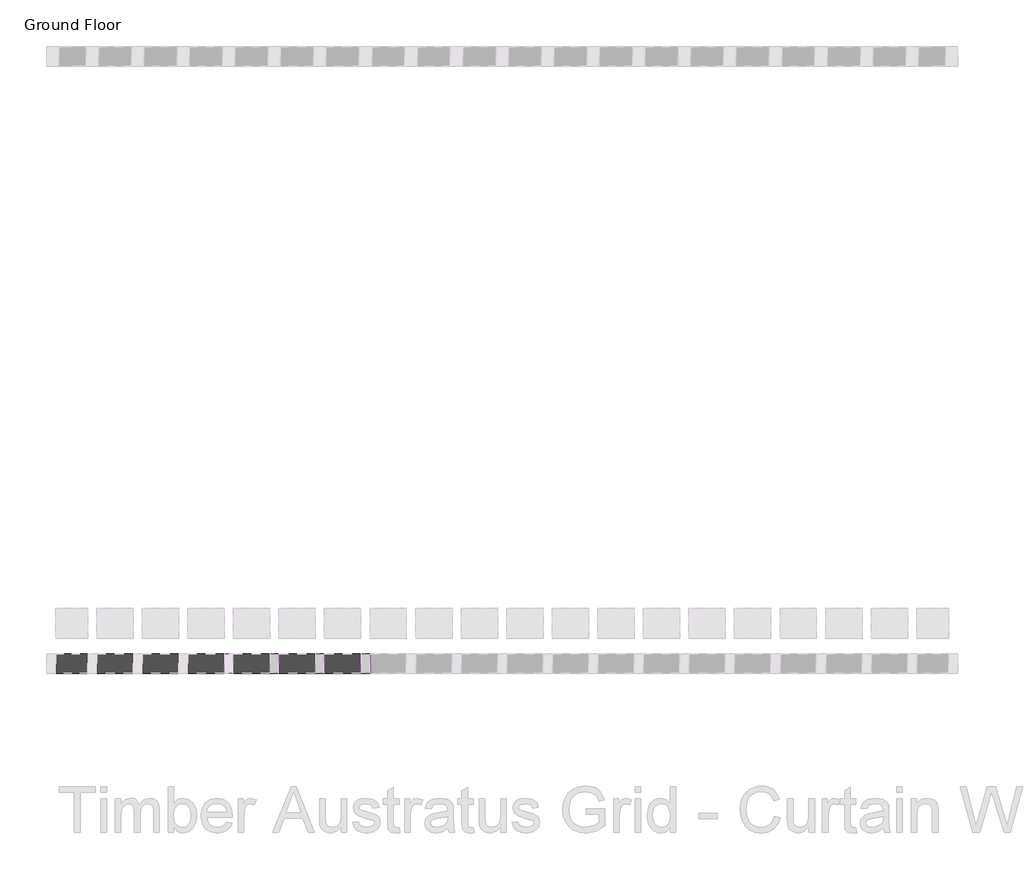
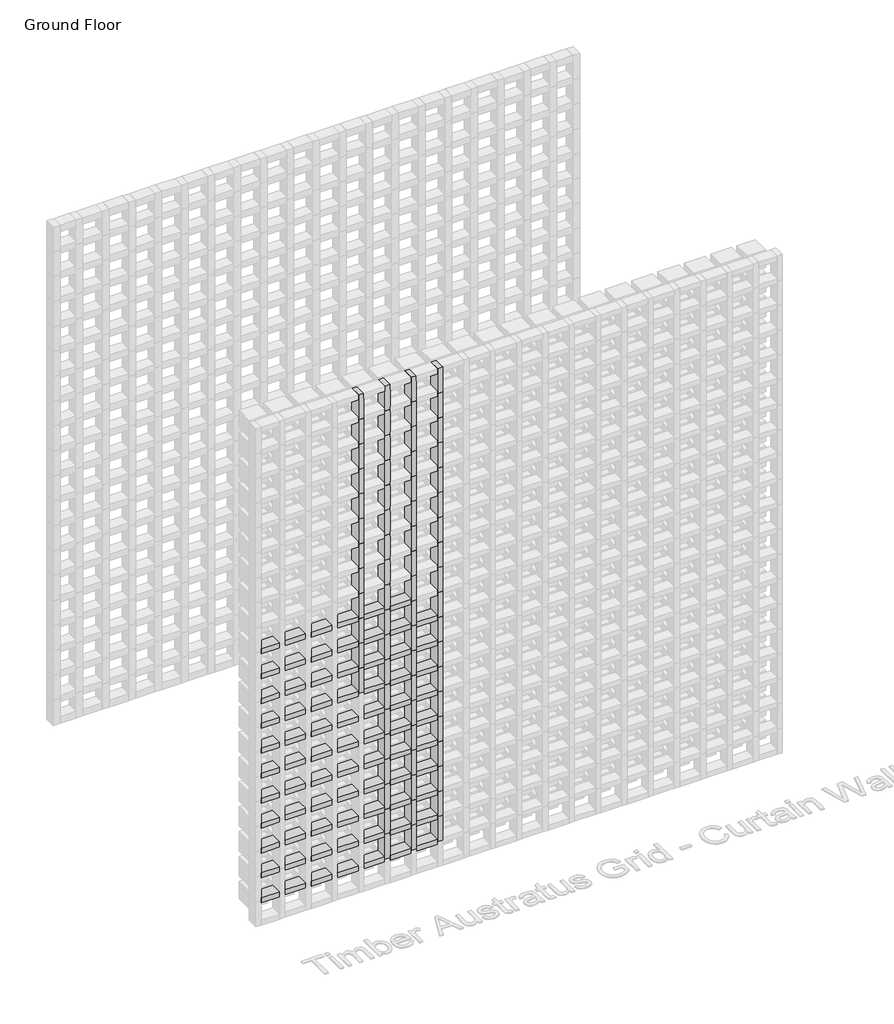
# One storey, part 48 of 350: 145 members.
"""IFC4 building model written with IfcOpenShell, lengths in millimetres."""

from ifc_helpers import new_model, si_unit, origin, place, context, project, spatial, transform, mapped, element, save
from components import rectangular_mullion_1c916715, rectangular_mullion_5b501421, rectangular_mullion_e9e2e2fa

model = new_model("IFC4")

# Units and contexts
model_context = context("Model", 3, world=origin())
ifc_project = project(units=[si_unit("LENGTHUNIT", "METRE", prefix="MILLI")], contexts=[model_context])

# Site, building, storey
site = spatial("IfcSite", under=ifc_project)
building = spatial("IfcBuilding", under=site)
storey = spatial("IfcBuildingStorey", under=building, Name="Ground Floor", Elevation=0.0)

# Members
placement = place(None, origin())
rectangular_mullion_shape = rectangular_mullion_1c916715(model_context)
element("IfcMember", 1, ObjectType="Rectangular Mullion : Batten_Timber_Modinex_Austratus_Grid_Fascia_30x65_AlaskanYellowCedar", at=placement, inside=storey, context=model_context, shape_type="MappedRepresentation", body=[
    mapped(rectangular_mullion_shape, transform((2201.4361642, 38968.2978302, 150.0), x_axis=(0.0, 0.0, 1.0), y_axis=(0.0, -1.0, 0.0), z_axis=(1.0, 0.0, 0.0))),
])
element("IfcMember", 2, ObjectType="Rectangular Mullion : Batten_Timber_Modinex_Austratus_Grid_Fascia_30x65_AlaskanYellowCedar", at=placement, inside=storey, context=model_context, shape_type="MappedRepresentation", body=[
    mapped(rectangular_mullion_shape, transform((2351.4361642, 38968.2978302, 150.0), x_axis=(0.0, 0.0, 1.0), y_axis=(0.0, -1.0, 0.0), z_axis=(1.0, 0.0, 0.0))),
])
element("IfcMember", 3, ObjectType="Rectangular Mullion : Batten_Timber_Modinex_Austratus_Grid_Fascia_30x65_AlaskanYellowCedar", at=placement, inside=storey, context=model_context, shape_type="MappedRepresentation", body=[
    mapped(rectangular_mullion_shape, transform((2501.4361642, 38968.2978302, 150.0), x_axis=(0.0, 0.0, 1.0), y_axis=(0.0, -1.0, 0.0), z_axis=(1.0, 0.0, 0.0))),
])
element("IfcMember", 4, ObjectType="Rectangular Mullion : Batten_Timber_Modinex_Austratus_Grid_Fascia_30x65_AlaskanYellowCedar", at=placement, inside=storey, context=model_context, shape_type="MappedRepresentation", body=[
    mapped(rectangular_mullion_shape, transform((2651.4361642, 38968.2978302, 150.0), x_axis=(0.0, 0.0, 1.0), y_axis=(0.0, -1.0, 0.0), z_axis=(1.0, 0.0, 0.0))),
])
element("IfcMember", 5, ObjectType="Rectangular Mullion : Batten_Timber_Modinex_Austratus_Grid_Fascia_30x65_AlaskanYellowCedar", at=placement, inside=storey, context=model_context, shape_type="MappedRepresentation", body=[
    mapped(rectangular_mullion_shape, transform((2801.4361642, 38968.2978302, 150.0), x_axis=(0.0, 0.0, 1.0), y_axis=(0.0, -1.0, 0.0), z_axis=(1.0, 0.0, 0.0))),
])
element("IfcMember", 6, ObjectType="Rectangular Mullion : Batten_Timber_Modinex_Austratus_Grid_Fascia_30x65_AlaskanYellowCedar", at=placement, inside=storey, context=model_context, shape_type="MappedRepresentation", body=[
    mapped(rectangular_mullion_shape, transform((2951.4361642, 38968.2978302, 150.0), x_axis=(0.0, 0.0, 1.0), y_axis=(0.0, -1.0, 0.0), z_axis=(1.0, 0.0, 0.0))),
])
element("IfcMember", 7, ObjectType="Rectangular Mullion : Batten_Timber_Modinex_Austratus_Grid_Fascia_30x65_AlaskanYellowCedar", at=placement, inside=storey, context=model_context, shape_type="MappedRepresentation", body=[
    mapped(rectangular_mullion_shape, transform((2201.4361642, 38968.2978302, 300.0), x_axis=(0.0, 0.0, 1.0), y_axis=(0.0, -1.0, 0.0), z_axis=(1.0, 0.0, 0.0))),
])
element("IfcMember", 8, ObjectType="Rectangular Mullion : Batten_Timber_Modinex_Austratus_Grid_Fascia_30x65_AlaskanYellowCedar", at=placement, inside=storey, context=model_context, shape_type="MappedRepresentation", body=[
    mapped(rectangular_mullion_shape, transform((2351.4361642, 38968.2978302, 300.0), x_axis=(0.0, 0.0, 1.0), y_axis=(0.0, -1.0, 0.0), z_axis=(1.0, 0.0, 0.0))),
])
element("IfcMember", 9, ObjectType="Rectangular Mullion : Batten_Timber_Modinex_Austratus_Grid_Fascia_30x65_AlaskanYellowCedar", at=placement, inside=storey, context=model_context, shape_type="MappedRepresentation", body=[
    mapped(rectangular_mullion_shape, transform((2501.4361642, 38968.2978302, 300.0), x_axis=(0.0, 0.0, 1.0), y_axis=(0.0, -1.0, 0.0), z_axis=(1.0, 0.0, 0.0))),
])
element("IfcMember", 10, ObjectType="Rectangular Mullion : Batten_Timber_Modinex_Austratus_Grid_Fascia_30x65_AlaskanYellowCedar", at=placement, inside=storey, context=model_context, shape_type="MappedRepresentation", body=[
    mapped(rectangular_mullion_shape, transform((2651.4361642, 38968.2978302, 300.0), x_axis=(0.0, 0.0, 1.0), y_axis=(0.0, -1.0, 0.0), z_axis=(1.0, 0.0, 0.0))),
])
element("IfcMember", 11, ObjectType="Rectangular Mullion : Batten_Timber_Modinex_Austratus_Grid_Fascia_30x65_AlaskanYellowCedar", at=placement, inside=storey, context=model_context, shape_type="MappedRepresentation", body=[
    mapped(rectangular_mullion_shape, transform((2801.4361642, 38968.2978302, 300.0), x_axis=(0.0, 0.0, 1.0), y_axis=(0.0, -1.0, 0.0), z_axis=(1.0, 0.0, 0.0))),
])
element("IfcMember", 12, ObjectType="Rectangular Mullion : Batten_Timber_Modinex_Austratus_Grid_Fascia_30x65_AlaskanYellowCedar", at=placement, inside=storey, context=model_context, shape_type="MappedRepresentation", body=[
    mapped(rectangular_mullion_shape, transform((2951.4361642, 38968.2978302, 300.0), x_axis=(0.0, 0.0, 1.0), y_axis=(0.0, -1.0, 0.0), z_axis=(1.0, 0.0, 0.0))),
])
element("IfcMember", 13, ObjectType="Rectangular Mullion : Batten_Timber_Modinex_Austratus_Grid_Fascia_30x65_AlaskanYellowCedar", at=placement, inside=storey, context=model_context, shape_type="MappedRepresentation", body=[
    mapped(rectangular_mullion_shape, transform((2201.4361642, 38968.2978302, 450.0), x_axis=(0.0, 0.0, 1.0), y_axis=(0.0, -1.0, 0.0), z_axis=(1.0, 0.0, 0.0))),
])
element("IfcMember", 14, ObjectType="Rectangular Mullion : Batten_Timber_Modinex_Austratus_Grid_Fascia_30x65_AlaskanYellowCedar", at=placement, inside=storey, context=model_context, shape_type="MappedRepresentation", body=[
    mapped(rectangular_mullion_shape, transform((2351.4361642, 38968.2978302, 450.0), x_axis=(0.0, 0.0, 1.0), y_axis=(0.0, -1.0, 0.0), z_axis=(1.0, 0.0, 0.0))),
])
element("IfcMember", 15, ObjectType="Rectangular Mullion : Batten_Timber_Modinex_Austratus_Grid_Fascia_30x65_AlaskanYellowCedar", at=placement, inside=storey, context=model_context, shape_type="MappedRepresentation", body=[
    mapped(rectangular_mullion_shape, transform((2501.4361642, 38968.2978302, 450.0), x_axis=(0.0, 0.0, 1.0), y_axis=(0.0, -1.0, 0.0), z_axis=(1.0, 0.0, 0.0))),
])
element("IfcMember", 16, ObjectType="Rectangular Mullion : Batten_Timber_Modinex_Austratus_Grid_Fascia_30x65_AlaskanYellowCedar", at=placement, inside=storey, context=model_context, shape_type="MappedRepresentation", body=[
    mapped(rectangular_mullion_shape, transform((2651.4361642, 38968.2978302, 450.0), x_axis=(0.0, 0.0, 1.0), y_axis=(0.0, -1.0, 0.0), z_axis=(1.0, 0.0, 0.0))),
])
element("IfcMember", 17, ObjectType="Rectangular Mullion : Batten_Timber_Modinex_Austratus_Grid_Fascia_30x65_AlaskanYellowCedar", at=placement, inside=storey, context=model_context, shape_type="MappedRepresentation", body=[
    mapped(rectangular_mullion_shape, transform((2801.4361642, 38968.2978302, 450.0), x_axis=(0.0, 0.0, 1.0), y_axis=(0.0, -1.0, 0.0), z_axis=(1.0, 0.0, 0.0))),
])
element("IfcMember", 18, ObjectType="Rectangular Mullion : Batten_Timber_Modinex_Austratus_Grid_Fascia_30x65_AlaskanYellowCedar", at=placement, inside=storey, context=model_context, shape_type="MappedRepresentation", body=[
    mapped(rectangular_mullion_shape, transform((2951.4361642, 38968.2978302, 450.0), x_axis=(0.0, 0.0, 1.0), y_axis=(0.0, -1.0, 0.0), z_axis=(1.0, 0.0, 0.0))),
])
element("IfcMember", 19, ObjectType="Rectangular Mullion : Batten_Timber_Modinex_Austratus_Grid_Fascia_30x65_AlaskanYellowCedar", at=placement, inside=storey, context=model_context, shape_type="MappedRepresentation", body=[
    mapped(rectangular_mullion_shape, transform((2201.4361642, 38968.2978302, 600.0), x_axis=(0.0, 0.0, 1.0), y_axis=(0.0, -1.0, 0.0), z_axis=(1.0, 0.0, 0.0))),
])
element("IfcMember", 20, ObjectType="Rectangular Mullion : Batten_Timber_Modinex_Austratus_Grid_Fascia_30x65_AlaskanYellowCedar", at=placement, inside=storey, context=model_context, shape_type="MappedRepresentation", body=[
    mapped(rectangular_mullion_shape, transform((2351.4361642, 38968.2978302, 600.0), x_axis=(0.0, 0.0, 1.0), y_axis=(0.0, -1.0, 0.0), z_axis=(1.0, 0.0, 0.0))),
])
element("IfcMember", 21, ObjectType="Rectangular Mullion : Batten_Timber_Modinex_Austratus_Grid_Fascia_30x65_AlaskanYellowCedar", at=placement, inside=storey, context=model_context, shape_type="MappedRepresentation", body=[
    mapped(rectangular_mullion_shape, transform((2501.4361642, 38968.2978302, 600.0), x_axis=(0.0, 0.0, 1.0), y_axis=(0.0, -1.0, 0.0), z_axis=(1.0, 0.0, 0.0))),
])
element("IfcMember", 22, ObjectType="Rectangular Mullion : Batten_Timber_Modinex_Austratus_Grid_Fascia_30x65_AlaskanYellowCedar", at=placement, inside=storey, context=model_context, shape_type="MappedRepresentation", body=[
    mapped(rectangular_mullion_shape, transform((2651.4361642, 38968.2978302, 600.0), x_axis=(0.0, 0.0, 1.0), y_axis=(0.0, -1.0, 0.0), z_axis=(1.0, 0.0, 0.0))),
])
element("IfcMember", 23, ObjectType="Rectangular Mullion : Batten_Timber_Modinex_Austratus_Grid_Fascia_30x65_AlaskanYellowCedar", at=placement, inside=storey, context=model_context, shape_type="MappedRepresentation", body=[
    mapped(rectangular_mullion_shape, transform((2801.4361642, 38968.2978302, 600.0), x_axis=(0.0, 0.0, 1.0), y_axis=(0.0, -1.0, 0.0), z_axis=(1.0, 0.0, 0.0))),
])
element("IfcMember", 24, ObjectType="Rectangular Mullion : Batten_Timber_Modinex_Austratus_Grid_Fascia_30x65_AlaskanYellowCedar", at=placement, inside=storey, context=model_context, shape_type="MappedRepresentation", body=[
    mapped(rectangular_mullion_shape, transform((2951.4361642, 38968.2978302, 600.0), x_axis=(0.0, 0.0, 1.0), y_axis=(0.0, -1.0, 0.0), z_axis=(1.0, 0.0, 0.0))),
])
element("IfcMember", 25, ObjectType="Rectangular Mullion : Batten_Timber_Modinex_Austratus_Grid_Fascia_30x65_AlaskanYellowCedar", at=placement, inside=storey, context=model_context, shape_type="MappedRepresentation", body=[
    mapped(rectangular_mullion_shape, transform((2201.4361642, 38968.2978302, 750.0), x_axis=(0.0, 0.0, 1.0), y_axis=(0.0, -1.0, 0.0), z_axis=(1.0, 0.0, 0.0))),
])
element("IfcMember", 26, ObjectType="Rectangular Mullion : Batten_Timber_Modinex_Austratus_Grid_Fascia_30x65_AlaskanYellowCedar", at=placement, inside=storey, context=model_context, shape_type="MappedRepresentation", body=[
    mapped(rectangular_mullion_shape, transform((2351.4361642, 38968.2978302, 750.0), x_axis=(0.0, 0.0, 1.0), y_axis=(0.0, -1.0, 0.0), z_axis=(1.0, 0.0, 0.0))),
])
element("IfcMember", 27, ObjectType="Rectangular Mullion : Batten_Timber_Modinex_Austratus_Grid_Fascia_30x65_AlaskanYellowCedar", at=placement, inside=storey, context=model_context, shape_type="MappedRepresentation", body=[
    mapped(rectangular_mullion_shape, transform((2501.4361642, 38968.2978302, 750.0), x_axis=(0.0, 0.0, 1.0), y_axis=(0.0, -1.0, 0.0), z_axis=(1.0, 0.0, 0.0))),
])
element("IfcMember", 28, ObjectType="Rectangular Mullion : Batten_Timber_Modinex_Austratus_Grid_Fascia_30x65_AlaskanYellowCedar", at=placement, inside=storey, context=model_context, shape_type="MappedRepresentation", body=[
    mapped(rectangular_mullion_shape, transform((2651.4361642, 38968.2978302, 750.0), x_axis=(0.0, 0.0, 1.0), y_axis=(0.0, -1.0, 0.0), z_axis=(1.0, 0.0, 0.0))),
])
element("IfcMember", 29, ObjectType="Rectangular Mullion : Batten_Timber_Modinex_Austratus_Grid_Fascia_30x65_AlaskanYellowCedar", at=placement, inside=storey, context=model_context, shape_type="MappedRepresentation", body=[
    mapped(rectangular_mullion_shape, transform((2801.4361642, 38968.2978302, 750.0), x_axis=(0.0, 0.0, 1.0), y_axis=(0.0, -1.0, 0.0), z_axis=(1.0, 0.0, 0.0))),
])
element("IfcMember", 30, ObjectType="Rectangular Mullion : Batten_Timber_Modinex_Austratus_Grid_Fascia_30x65_AlaskanYellowCedar", at=placement, inside=storey, context=model_context, shape_type="MappedRepresentation", body=[
    mapped(rectangular_mullion_shape, transform((2951.4361642, 38968.2978302, 750.0), x_axis=(0.0, 0.0, 1.0), y_axis=(0.0, -1.0, 0.0), z_axis=(1.0, 0.0, 0.0))),
])
element("IfcMember", 31, ObjectType="Rectangular Mullion : Batten_Timber_Modinex_Austratus_Grid_Fascia_30x65_AlaskanYellowCedar", at=placement, inside=storey, context=model_context, shape_type="MappedRepresentation", body=[
    mapped(rectangular_mullion_shape, transform((2201.4361642, 38968.2978302, 900.0), x_axis=(0.0, 0.0, 1.0), y_axis=(0.0, -1.0, 0.0), z_axis=(1.0, 0.0, 0.0))),
])
element("IfcMember", 32, ObjectType="Rectangular Mullion : Batten_Timber_Modinex_Austratus_Grid_Fascia_30x65_AlaskanYellowCedar", at=placement, inside=storey, context=model_context, shape_type="MappedRepresentation", body=[
    mapped(rectangular_mullion_shape, transform((2351.4361642, 38968.2978302, 900.0), x_axis=(0.0, 0.0, 1.0), y_axis=(0.0, -1.0, 0.0), z_axis=(1.0, 0.0, 0.0))),
])
element("IfcMember", 33, ObjectType="Rectangular Mullion : Batten_Timber_Modinex_Austratus_Grid_Fascia_30x65_AlaskanYellowCedar", at=placement, inside=storey, context=model_context, shape_type="MappedRepresentation", body=[
    mapped(rectangular_mullion_shape, transform((2501.4361642, 38968.2978302, 900.0), x_axis=(0.0, 0.0, 1.0), y_axis=(0.0, -1.0, 0.0), z_axis=(1.0, 0.0, 0.0))),
])
element("IfcMember", 34, ObjectType="Rectangular Mullion : Batten_Timber_Modinex_Austratus_Grid_Fascia_30x65_AlaskanYellowCedar", at=placement, inside=storey, context=model_context, shape_type="MappedRepresentation", body=[
    mapped(rectangular_mullion_shape, transform((2651.4361642, 38968.2978302, 900.0), x_axis=(0.0, 0.0, 1.0), y_axis=(0.0, -1.0, 0.0), z_axis=(1.0, 0.0, 0.0))),
])
element("IfcMember", 35, ObjectType="Rectangular Mullion : Batten_Timber_Modinex_Austratus_Grid_Fascia_30x65_AlaskanYellowCedar", at=placement, inside=storey, context=model_context, shape_type="MappedRepresentation", body=[
    mapped(rectangular_mullion_shape, transform((2801.4361642, 38968.2978302, 900.0), x_axis=(0.0, 0.0, 1.0), y_axis=(0.0, -1.0, 0.0), z_axis=(1.0, 0.0, 0.0))),
])
element("IfcMember", 36, ObjectType="Rectangular Mullion : Batten_Timber_Modinex_Austratus_Grid_Fascia_30x65_AlaskanYellowCedar", at=placement, inside=storey, context=model_context, shape_type="MappedRepresentation", body=[
    mapped(rectangular_mullion_shape, transform((2951.4361642, 38968.2978302, 900.0), x_axis=(0.0, 0.0, 1.0), y_axis=(0.0, -1.0, 0.0), z_axis=(1.0, 0.0, 0.0))),
])
element("IfcMember", 37, ObjectType="Rectangular Mullion : Batten_Timber_Modinex_Austratus_Grid_Fascia_30x65_AlaskanYellowCedar", at=placement, inside=storey, context=model_context, shape_type="MappedRepresentation", body=[
    mapped(rectangular_mullion_shape, transform((2201.4361642, 38968.2978302, 1050.0), x_axis=(0.0, 0.0, 1.0), y_axis=(0.0, -1.0, 0.0), z_axis=(1.0, 0.0, 0.0))),
])
element("IfcMember", 38, ObjectType="Rectangular Mullion : Batten_Timber_Modinex_Austratus_Grid_Fascia_30x65_AlaskanYellowCedar", at=placement, inside=storey, context=model_context, shape_type="MappedRepresentation", body=[
    mapped(rectangular_mullion_shape, transform((2351.4361642, 38968.2978302, 1050.0), x_axis=(0.0, 0.0, 1.0), y_axis=(0.0, -1.0, 0.0), z_axis=(1.0, 0.0, 0.0))),
])
element("IfcMember", 39, ObjectType="Rectangular Mullion : Batten_Timber_Modinex_Austratus_Grid_Fascia_30x65_AlaskanYellowCedar", at=placement, inside=storey, context=model_context, shape_type="MappedRepresentation", body=[
    mapped(rectangular_mullion_shape, transform((2501.4361642, 38968.2978302, 1050.0), x_axis=(0.0, 0.0, 1.0), y_axis=(0.0, -1.0, 0.0), z_axis=(1.0, 0.0, 0.0))),
])
element("IfcMember", 40, ObjectType="Rectangular Mullion : Batten_Timber_Modinex_Austratus_Grid_Fascia_30x65_AlaskanYellowCedar", at=placement, inside=storey, context=model_context, shape_type="MappedRepresentation", body=[
    mapped(rectangular_mullion_shape, transform((2651.4361642, 38968.2978302, 1050.0), x_axis=(0.0, 0.0, 1.0), y_axis=(0.0, -1.0, 0.0), z_axis=(1.0, 0.0, 0.0))),
])
element("IfcMember", 41, ObjectType="Rectangular Mullion : Batten_Timber_Modinex_Austratus_Grid_Fascia_30x65_AlaskanYellowCedar", at=placement, inside=storey, context=model_context, shape_type="MappedRepresentation", body=[
    mapped(rectangular_mullion_shape, transform((2801.4361642, 38968.2978302, 1050.0), x_axis=(0.0, 0.0, 1.0), y_axis=(0.0, -1.0, 0.0), z_axis=(1.0, 0.0, 0.0))),
])
element("IfcMember", 42, ObjectType="Rectangular Mullion : Batten_Timber_Modinex_Austratus_Grid_Fascia_30x65_AlaskanYellowCedar", at=placement, inside=storey, context=model_context, shape_type="MappedRepresentation", body=[
    mapped(rectangular_mullion_shape, transform((2951.4361642, 38968.2978302, 1050.0), x_axis=(0.0, 0.0, 1.0), y_axis=(0.0, -1.0, 0.0), z_axis=(1.0, 0.0, 0.0))),
])
element("IfcMember", 43, ObjectType="Rectangular Mullion : Batten_Timber_Modinex_Austratus_Grid_Fascia_30x65_AlaskanYellowCedar", at=placement, inside=storey, context=model_context, shape_type="MappedRepresentation", body=[
    mapped(rectangular_mullion_shape, transform((2201.4361642, 38968.2978302, 1200.0), x_axis=(0.0, 0.0, 1.0), y_axis=(0.0, -1.0, 0.0), z_axis=(1.0, 0.0, 0.0))),
])
element("IfcMember", 44, ObjectType="Rectangular Mullion : Batten_Timber_Modinex_Austratus_Grid_Fascia_30x65_AlaskanYellowCedar", at=placement, inside=storey, context=model_context, shape_type="MappedRepresentation", body=[
    mapped(rectangular_mullion_shape, transform((2351.4361642, 38968.2978302, 1200.0), x_axis=(0.0, 0.0, 1.0), y_axis=(0.0, -1.0, 0.0), z_axis=(1.0, 0.0, 0.0))),
])
element("IfcMember", 45, ObjectType="Rectangular Mullion : Batten_Timber_Modinex_Austratus_Grid_Fascia_30x65_AlaskanYellowCedar", at=placement, inside=storey, context=model_context, shape_type="MappedRepresentation", body=[
    mapped(rectangular_mullion_shape, transform((2501.4361642, 38968.2978302, 1200.0), x_axis=(0.0, 0.0, 1.0), y_axis=(0.0, -1.0, 0.0), z_axis=(1.0, 0.0, 0.0))),
])
element("IfcMember", 46, ObjectType="Rectangular Mullion : Batten_Timber_Modinex_Austratus_Grid_Fascia_30x65_AlaskanYellowCedar", at=placement, inside=storey, context=model_context, shape_type="MappedRepresentation", body=[
    mapped(rectangular_mullion_shape, transform((2651.4361642, 38968.2978302, 1200.0), x_axis=(0.0, 0.0, 1.0), y_axis=(0.0, -1.0, 0.0), z_axis=(1.0, 0.0, 0.0))),
])
element("IfcMember", 47, ObjectType="Rectangular Mullion : Batten_Timber_Modinex_Austratus_Grid_Fascia_30x65_AlaskanYellowCedar", at=placement, inside=storey, context=model_context, shape_type="MappedRepresentation", body=[
    mapped(rectangular_mullion_shape, transform((2801.4361642, 38968.2978302, 1200.0), x_axis=(0.0, 0.0, 1.0), y_axis=(0.0, -1.0, 0.0), z_axis=(1.0, 0.0, 0.0))),
])
element("IfcMember", 48, ObjectType="Rectangular Mullion : Batten_Timber_Modinex_Austratus_Grid_Fascia_30x65_AlaskanYellowCedar", at=placement, inside=storey, context=model_context, shape_type="MappedRepresentation", body=[
    mapped(rectangular_mullion_shape, transform((2951.4361642, 38968.2978302, 1200.0), x_axis=(0.0, 0.0, 1.0), y_axis=(0.0, -1.0, 0.0), z_axis=(1.0, 0.0, 0.0))),
])
element("IfcMember", 49, ObjectType="Rectangular Mullion : Batten_Timber_Modinex_Austratus_Grid_Fascia_30x65_AlaskanYellowCedar", at=placement, inside=storey, context=model_context, shape_type="MappedRepresentation", body=[
    mapped(rectangular_mullion_shape, transform((2201.4361642, 38968.2978302, 1350.0), x_axis=(0.0, 0.0, 1.0), y_axis=(0.0, -1.0, 0.0), z_axis=(1.0, 0.0, 0.0))),
])
element("IfcMember", 50, ObjectType="Rectangular Mullion : Batten_Timber_Modinex_Austratus_Grid_Fascia_30x65_AlaskanYellowCedar", at=placement, inside=storey, context=model_context, shape_type="MappedRepresentation", body=[
    mapped(rectangular_mullion_shape, transform((2351.4361642, 38968.2978302, 1350.0), x_axis=(0.0, 0.0, 1.0), y_axis=(0.0, -1.0, 0.0), z_axis=(1.0, 0.0, 0.0))),
])
element("IfcMember", 51, ObjectType="Rectangular Mullion : Batten_Timber_Modinex_Austratus_Grid_Fascia_30x65_AlaskanYellowCedar", at=placement, inside=storey, context=model_context, shape_type="MappedRepresentation", body=[
    mapped(rectangular_mullion_shape, transform((2501.4361642, 38968.2978302, 1350.0), x_axis=(0.0, 0.0, 1.0), y_axis=(0.0, -1.0, 0.0), z_axis=(1.0, 0.0, 0.0))),
])
element("IfcMember", 52, ObjectType="Rectangular Mullion : Batten_Timber_Modinex_Austratus_Grid_Fascia_30x65_AlaskanYellowCedar", at=placement, inside=storey, context=model_context, shape_type="MappedRepresentation", body=[
    mapped(rectangular_mullion_shape, transform((2651.4361642, 38968.2978302, 1350.0), x_axis=(0.0, 0.0, 1.0), y_axis=(0.0, -1.0, 0.0), z_axis=(1.0, 0.0, 0.0))),
])
element("IfcMember", 53, ObjectType="Rectangular Mullion : Batten_Timber_Modinex_Austratus_Grid_Fascia_30x65_AlaskanYellowCedar", at=placement, inside=storey, context=model_context, shape_type="MappedRepresentation", body=[
    mapped(rectangular_mullion_shape, transform((2801.4361642, 38968.2978302, 1350.0), x_axis=(0.0, 0.0, 1.0), y_axis=(0.0, -1.0, 0.0), z_axis=(1.0, 0.0, 0.0))),
])
element("IfcMember", 54, ObjectType="Rectangular Mullion : Batten_Timber_Modinex_Austratus_Grid_Fascia_30x65_AlaskanYellowCedar", at=placement, inside=storey, context=model_context, shape_type="MappedRepresentation", body=[
    mapped(rectangular_mullion_shape, transform((2951.4361642, 38968.2978302, 1350.0), x_axis=(0.0, 0.0, 1.0), y_axis=(0.0, -1.0, 0.0), z_axis=(1.0, 0.0, 0.0))),
])
element("IfcMember", 55, ObjectType="Rectangular Mullion : Batten_Timber_Modinex_Austratus_Grid_Fascia_30x65_AlaskanYellowCedar", at=placement, inside=storey, context=model_context, shape_type="MappedRepresentation", body=[
    mapped(rectangular_mullion_shape, transform((2201.4361642, 38968.2978302, 1500.0), x_axis=(0.0, 0.0, 1.0), y_axis=(0.0, -1.0, 0.0), z_axis=(1.0, 0.0, 0.0))),
])
element("IfcMember", 56, ObjectType="Rectangular Mullion : Batten_Timber_Modinex_Austratus_Grid_Fascia_30x65_AlaskanYellowCedar", at=placement, inside=storey, context=model_context, shape_type="MappedRepresentation", body=[
    mapped(rectangular_mullion_shape, transform((2351.4361642, 38968.2978302, 1500.0), x_axis=(0.0, 0.0, 1.0), y_axis=(0.0, -1.0, 0.0), z_axis=(1.0, 0.0, 0.0))),
])
element("IfcMember", 57, ObjectType="Rectangular Mullion : Batten_Timber_Modinex_Austratus_Grid_Fascia_30x65_AlaskanYellowCedar", at=placement, inside=storey, context=model_context, shape_type="MappedRepresentation", body=[
    mapped(rectangular_mullion_shape, transform((2501.4361642, 38968.2978302, 1500.0), x_axis=(0.0, 0.0, 1.0), y_axis=(0.0, -1.0, 0.0), z_axis=(1.0, 0.0, 0.0))),
])
element("IfcMember", 58, ObjectType="Rectangular Mullion : Batten_Timber_Modinex_Austratus_Grid_Fascia_30x65_AlaskanYellowCedar", at=placement, inside=storey, context=model_context, shape_type="MappedRepresentation", body=[
    mapped(rectangular_mullion_shape, transform((2651.4361642, 38968.2978302, 1500.0), x_axis=(0.0, 0.0, 1.0), y_axis=(0.0, -1.0, 0.0), z_axis=(1.0, 0.0, 0.0))),
])
element("IfcMember", 59, ObjectType="Rectangular Mullion : Batten_Timber_Modinex_Austratus_Grid_Fascia_30x65_AlaskanYellowCedar", at=placement, inside=storey, context=model_context, shape_type="MappedRepresentation", body=[
    mapped(rectangular_mullion_shape, transform((2801.4361642, 38968.2978302, 1500.0), x_axis=(0.0, 0.0, 1.0), y_axis=(0.0, -1.0, 0.0), z_axis=(1.0, 0.0, 0.0))),
])
element("IfcMember", 60, ObjectType="Rectangular Mullion : Batten_Timber_Modinex_Austratus_Grid_Fascia_30x65_AlaskanYellowCedar", at=placement, inside=storey, context=model_context, shape_type="MappedRepresentation", body=[
    mapped(rectangular_mullion_shape, transform((2951.4361642, 38968.2978302, 1500.0), x_axis=(0.0, 0.0, 1.0), y_axis=(0.0, -1.0, 0.0), z_axis=(1.0, 0.0, 0.0))),
])
element("IfcMember", 61, ObjectType="Rectangular Mullion : Batten_Timber_Modinex_Austratus_Grid_Fascia_30x65_AlaskanYellowCedar", at=placement, inside=storey, context=model_context, shape_type="MappedRepresentation", body=[
    mapped(rectangular_mullion_shape, transform((2201.4361642, 38968.2978302, 1650.0), x_axis=(0.0, 0.0, 1.0), y_axis=(0.0, -1.0, 0.0), z_axis=(1.0, 0.0, 0.0))),
])
element("IfcMember", 62, ObjectType="Rectangular Mullion : Batten_Timber_Modinex_Austratus_Grid_Fascia_30x65_AlaskanYellowCedar", at=placement, inside=storey, context=model_context, shape_type="MappedRepresentation", body=[
    mapped(rectangular_mullion_shape, transform((2351.4361642, 38968.2978302, 1650.0), x_axis=(0.0, 0.0, 1.0), y_axis=(0.0, -1.0, 0.0), z_axis=(1.0, 0.0, 0.0))),
])
element("IfcMember", 63, ObjectType="Rectangular Mullion : Batten_Timber_Modinex_Austratus_Grid_Fascia_30x65_AlaskanYellowCedar", at=placement, inside=storey, context=model_context, shape_type="MappedRepresentation", body=[
    mapped(rectangular_mullion_shape, transform((2501.4361642, 38968.2978302, 1650.0), x_axis=(0.0, 0.0, 1.0), y_axis=(0.0, -1.0, 0.0), z_axis=(1.0, 0.0, 0.0))),
])
element("IfcMember", 64, ObjectType="Rectangular Mullion : Batten_Timber_Modinex_Austratus_Grid_Fascia_30x65_AlaskanYellowCedar", at=placement, inside=storey, context=model_context, shape_type="MappedRepresentation", body=[
    mapped(rectangular_mullion_shape, transform((2651.4361642, 38968.2978302, 1650.0), x_axis=(0.0, 0.0, 1.0), y_axis=(0.0, -1.0, 0.0), z_axis=(1.0, 0.0, 0.0))),
])
element("IfcMember", 65, ObjectType="Rectangular Mullion : Batten_Timber_Modinex_Austratus_Grid_Fascia_30x65_AlaskanYellowCedar", at=placement, inside=storey, context=model_context, shape_type="MappedRepresentation", body=[
    mapped(rectangular_mullion_shape, transform((2801.4361642, 38968.2978302, 1650.0), x_axis=(0.0, 0.0, 1.0), y_axis=(0.0, -1.0, 0.0), z_axis=(1.0, 0.0, 0.0))),
])
rectangular_mullion_2_shape = rectangular_mullion_5b501421(model_context)
element("IfcMember", 66, ObjectType="Rectangular Mullion : Batten_Timber_Modinex_Austratus_Grid_Fascia_30x65_AlaskanYellowCedar", at=placement, inside=storey, context=model_context, shape_type="MappedRepresentation", body=[
    mapped(rectangular_mullion_2_shape, transform((2516.4361642, 38968.2978302, 1200.0), x_axis=(1.0, 0.0, 0.0), y_axis=(0.0, -1.0, 0.0), z_axis=(0.0, 0.0, -1.0))),
])
element("IfcMember", 67, ObjectType="Rectangular Mullion : Batten_Timber_Modinex_Austratus_Grid_Fascia_30x65_AlaskanYellowCedar", at=placement, inside=storey, context=model_context, shape_type="MappedRepresentation", body=[
    mapped(rectangular_mullion_2_shape, transform((2516.4361642, 38968.2978302, 1350.0), x_axis=(1.0, 0.0, 0.0), y_axis=(0.0, -1.0, 0.0), z_axis=(0.0, 0.0, -1.0))),
])
element("IfcMember", 68, ObjectType="Rectangular Mullion : Batten_Timber_Modinex_Austratus_Grid_Fascia_30x65_AlaskanYellowCedar", at=placement, inside=storey, context=model_context, shape_type="MappedRepresentation", body=[
    mapped(rectangular_mullion_2_shape, transform((2516.4361642, 38968.2978302, 1500.0), x_axis=(1.0, 0.0, 0.0), y_axis=(0.0, -1.0, 0.0), z_axis=(0.0, 0.0, -1.0))),
])
element("IfcMember", 69, ObjectType="Rectangular Mullion : Batten_Timber_Modinex_Austratus_Grid_Fascia_30x65_AlaskanYellowCedar", at=placement, inside=storey, context=model_context, shape_type="MappedRepresentation", body=[
    mapped(rectangular_mullion_2_shape, transform((2516.4361642, 38968.2978302, 1650.0), x_axis=(1.0, 0.0, 0.0), y_axis=(0.0, -1.0, 0.0), z_axis=(0.0, 0.0, -1.0))),
])
element("IfcMember", 70, ObjectType="Rectangular Mullion : Batten_Timber_Modinex_Austratus_Grid_Fascia_30x65_AlaskanYellowCedar", at=placement, inside=storey, context=model_context, shape_type="MappedRepresentation", body=[
    mapped(rectangular_mullion_2_shape, transform((2516.4361642, 38968.2978302, 1800.0), x_axis=(1.0, 0.0, 0.0), y_axis=(0.0, -1.0, 0.0), z_axis=(0.0, 0.0, -1.0))),
])
element("IfcMember", 71, ObjectType="Rectangular Mullion : Batten_Timber_Modinex_Austratus_Grid_Fascia_30x65_AlaskanYellowCedar", at=placement, inside=storey, context=model_context, shape_type="MappedRepresentation", body=[
    mapped(rectangular_mullion_2_shape, transform((2516.4361642, 38968.2978302, 1950.0), x_axis=(1.0, 0.0, 0.0), y_axis=(0.0, -1.0, 0.0), z_axis=(0.0, 0.0, -1.0))),
])
element("IfcMember", 72, ObjectType="Rectangular Mullion : Batten_Timber_Modinex_Austratus_Grid_Fascia_30x65_AlaskanYellowCedar", at=placement, inside=storey, context=model_context, shape_type="MappedRepresentation", body=[
    mapped(rectangular_mullion_2_shape, transform((2516.4361642, 38968.2978302, 2100.0), x_axis=(1.0, 0.0, 0.0), y_axis=(0.0, -1.0, 0.0), z_axis=(0.0, 0.0, -1.0))),
])
element("IfcMember", 73, ObjectType="Rectangular Mullion : Batten_Timber_Modinex_Austratus_Grid_Fascia_30x65_AlaskanYellowCedar", at=placement, inside=storey, context=model_context, shape_type="MappedRepresentation", body=[
    mapped(rectangular_mullion_2_shape, transform((2516.4361642, 38968.2978302, 2250.0), x_axis=(1.0, 0.0, 0.0), y_axis=(0.0, -1.0, 0.0), z_axis=(0.0, 0.0, -1.0))),
])
element("IfcMember", 74, ObjectType="Rectangular Mullion : Batten_Timber_Modinex_Austratus_Grid_Fascia_30x65_AlaskanYellowCedar", at=placement, inside=storey, context=model_context, shape_type="MappedRepresentation", body=[
    mapped(rectangular_mullion_2_shape, transform((2516.4361642, 38968.2978302, 2400.0), x_axis=(1.0, 0.0, 0.0), y_axis=(0.0, -1.0, 0.0), z_axis=(0.0, 0.0, -1.0))),
])
element("IfcMember", 75, ObjectType="Rectangular Mullion : Batten_Timber_Modinex_Austratus_Grid_Fascia_30x65_AlaskanYellowCedar", at=placement, inside=storey, context=model_context, shape_type="MappedRepresentation", body=[
    mapped(rectangular_mullion_2_shape, transform((2516.4361642, 38968.2978302, 2550.0), x_axis=(1.0, 0.0, 0.0), y_axis=(0.0, -1.0, 0.0), z_axis=(0.0, 0.0, -1.0))),
])
element("IfcMember", 76, ObjectType="Rectangular Mullion : Batten_Timber_Modinex_Austratus_Grid_Fascia_30x65_AlaskanYellowCedar", at=placement, inside=storey, context=model_context, shape_type="MappedRepresentation", body=[
    mapped(rectangular_mullion_2_shape, transform((2516.4361642, 38968.2978302, 2700.0), x_axis=(1.0, 0.0, 0.0), y_axis=(0.0, -1.0, 0.0), z_axis=(0.0, 0.0, -1.0))),
])
element("IfcMember", 77, ObjectType="Rectangular Mullion : Batten_Timber_Modinex_Austratus_Grid_Fascia_30x65_AlaskanYellowCedar", at=placement, inside=storey, context=model_context, shape_type="MappedRepresentation", body=[
    mapped(rectangular_mullion_2_shape, transform((2666.4361642, 38968.2978302, 150.0), x_axis=(1.0, 0.0, 0.0), y_axis=(0.0, -1.0, 0.0), z_axis=(0.0, 0.0, -1.0))),
])
element("IfcMember", 78, ObjectType="Rectangular Mullion : Batten_Timber_Modinex_Austratus_Grid_Fascia_30x65_AlaskanYellowCedar", at=placement, inside=storey, context=model_context, shape_type="MappedRepresentation", body=[
    mapped(rectangular_mullion_2_shape, transform((2666.4361642, 38968.2978302, 300.0), x_axis=(1.0, 0.0, 0.0), y_axis=(0.0, -1.0, 0.0), z_axis=(0.0, 0.0, -1.0))),
])
element("IfcMember", 79, ObjectType="Rectangular Mullion : Batten_Timber_Modinex_Austratus_Grid_Fascia_30x65_AlaskanYellowCedar", at=placement, inside=storey, context=model_context, shape_type="MappedRepresentation", body=[
    mapped(rectangular_mullion_2_shape, transform((2666.4361642, 38968.2978302, 450.0), x_axis=(1.0, 0.0, 0.0), y_axis=(0.0, -1.0, 0.0), z_axis=(0.0, 0.0, -1.0))),
])
element("IfcMember", 80, ObjectType="Rectangular Mullion : Batten_Timber_Modinex_Austratus_Grid_Fascia_30x65_AlaskanYellowCedar", at=placement, inside=storey, context=model_context, shape_type="MappedRepresentation", body=[
    mapped(rectangular_mullion_2_shape, transform((2666.4361642, 38968.2978302, 600.0), x_axis=(1.0, 0.0, 0.0), y_axis=(0.0, -1.0, 0.0), z_axis=(0.0, 0.0, -1.0))),
])
element("IfcMember", 81, ObjectType="Rectangular Mullion : Batten_Timber_Modinex_Austratus_Grid_Fascia_30x65_AlaskanYellowCedar", at=placement, inside=storey, context=model_context, shape_type="MappedRepresentation", body=[
    mapped(rectangular_mullion_2_shape, transform((2666.4361642, 38968.2978302, 750.0), x_axis=(1.0, 0.0, 0.0), y_axis=(0.0, -1.0, 0.0), z_axis=(0.0, 0.0, -1.0))),
])
element("IfcMember", 82, ObjectType="Rectangular Mullion : Batten_Timber_Modinex_Austratus_Grid_Fascia_30x65_AlaskanYellowCedar", at=placement, inside=storey, context=model_context, shape_type="MappedRepresentation", body=[
    mapped(rectangular_mullion_2_shape, transform((2666.4361642, 38968.2978302, 900.0), x_axis=(1.0, 0.0, 0.0), y_axis=(0.0, -1.0, 0.0), z_axis=(0.0, 0.0, -1.0))),
])
element("IfcMember", 83, ObjectType="Rectangular Mullion : Batten_Timber_Modinex_Austratus_Grid_Fascia_30x65_AlaskanYellowCedar", at=placement, inside=storey, context=model_context, shape_type="MappedRepresentation", body=[
    mapped(rectangular_mullion_2_shape, transform((2666.4361642, 38968.2978302, 1050.0), x_axis=(1.0, 0.0, 0.0), y_axis=(0.0, -1.0, 0.0), z_axis=(0.0, 0.0, -1.0))),
])
element("IfcMember", 84, ObjectType="Rectangular Mullion : Batten_Timber_Modinex_Austratus_Grid_Fascia_30x65_AlaskanYellowCedar", at=placement, inside=storey, context=model_context, shape_type="MappedRepresentation", body=[
    mapped(rectangular_mullion_2_shape, transform((2666.4361642, 38968.2978302, 1200.0), x_axis=(1.0, 0.0, 0.0), y_axis=(0.0, -1.0, 0.0), z_axis=(0.0, 0.0, -1.0))),
])
element("IfcMember", 85, ObjectType="Rectangular Mullion : Batten_Timber_Modinex_Austratus_Grid_Fascia_30x65_AlaskanYellowCedar", at=placement, inside=storey, context=model_context, shape_type="MappedRepresentation", body=[
    mapped(rectangular_mullion_2_shape, transform((2666.4361642, 38968.2978302, 1350.0), x_axis=(1.0, 0.0, 0.0), y_axis=(0.0, -1.0, 0.0), z_axis=(0.0, 0.0, -1.0))),
])
element("IfcMember", 86, ObjectType="Rectangular Mullion : Batten_Timber_Modinex_Austratus_Grid_Fascia_30x65_AlaskanYellowCedar", at=placement, inside=storey, context=model_context, shape_type="MappedRepresentation", body=[
    mapped(rectangular_mullion_2_shape, transform((2666.4361642, 38968.2978302, 1500.0), x_axis=(1.0, 0.0, 0.0), y_axis=(0.0, -1.0, 0.0), z_axis=(0.0, 0.0, -1.0))),
])
element("IfcMember", 87, ObjectType="Rectangular Mullion : Batten_Timber_Modinex_Austratus_Grid_Fascia_30x65_AlaskanYellowCedar", at=placement, inside=storey, context=model_context, shape_type="MappedRepresentation", body=[
    mapped(rectangular_mullion_2_shape, transform((2666.4361642, 38968.2978302, 1650.0), x_axis=(1.0, 0.0, 0.0), y_axis=(0.0, -1.0, 0.0), z_axis=(0.0, 0.0, -1.0))),
])
element("IfcMember", 88, ObjectType="Rectangular Mullion : Batten_Timber_Modinex_Austratus_Grid_Fascia_30x65_AlaskanYellowCedar", at=placement, inside=storey, context=model_context, shape_type="MappedRepresentation", body=[
    mapped(rectangular_mullion_2_shape, transform((2666.4361642, 38968.2978302, 1800.0), x_axis=(1.0, 0.0, 0.0), y_axis=(0.0, -1.0, 0.0), z_axis=(0.0, 0.0, -1.0))),
])
element("IfcMember", 89, ObjectType="Rectangular Mullion : Batten_Timber_Modinex_Austratus_Grid_Fascia_30x65_AlaskanYellowCedar", at=placement, inside=storey, context=model_context, shape_type="MappedRepresentation", body=[
    mapped(rectangular_mullion_2_shape, transform((2666.4361642, 38968.2978302, 1950.0), x_axis=(1.0, 0.0, 0.0), y_axis=(0.0, -1.0, 0.0), z_axis=(0.0, 0.0, -1.0))),
])
element("IfcMember", 90, ObjectType="Rectangular Mullion : Batten_Timber_Modinex_Austratus_Grid_Fascia_30x65_AlaskanYellowCedar", at=placement, inside=storey, context=model_context, shape_type="MappedRepresentation", body=[
    mapped(rectangular_mullion_2_shape, transform((2666.4361642, 38968.2978302, 2100.0), x_axis=(1.0, 0.0, 0.0), y_axis=(0.0, -1.0, 0.0), z_axis=(0.0, 0.0, -1.0))),
])
element("IfcMember", 91, ObjectType="Rectangular Mullion : Batten_Timber_Modinex_Austratus_Grid_Fascia_30x65_AlaskanYellowCedar", at=placement, inside=storey, context=model_context, shape_type="MappedRepresentation", body=[
    mapped(rectangular_mullion_2_shape, transform((2666.4361642, 38968.2978302, 2250.0), x_axis=(1.0, 0.0, 0.0), y_axis=(0.0, -1.0, 0.0), z_axis=(0.0, 0.0, -1.0))),
])
element("IfcMember", 92, ObjectType="Rectangular Mullion : Batten_Timber_Modinex_Austratus_Grid_Fascia_30x65_AlaskanYellowCedar", at=placement, inside=storey, context=model_context, shape_type="MappedRepresentation", body=[
    mapped(rectangular_mullion_2_shape, transform((2666.4361642, 38968.2978302, 2400.0), x_axis=(1.0, 0.0, 0.0), y_axis=(0.0, -1.0, 0.0), z_axis=(0.0, 0.0, -1.0))),
])
element("IfcMember", 93, ObjectType="Rectangular Mullion : Batten_Timber_Modinex_Austratus_Grid_Fascia_30x65_AlaskanYellowCedar", at=placement, inside=storey, context=model_context, shape_type="MappedRepresentation", body=[
    mapped(rectangular_mullion_2_shape, transform((2666.4361642, 38968.2978302, 2550.0), x_axis=(1.0, 0.0, 0.0), y_axis=(0.0, -1.0, 0.0), z_axis=(0.0, 0.0, -1.0))),
])
element("IfcMember", 94, ObjectType="Rectangular Mullion : Batten_Timber_Modinex_Austratus_Grid_Fascia_30x65_AlaskanYellowCedar", at=placement, inside=storey, context=model_context, shape_type="MappedRepresentation", body=[
    mapped(rectangular_mullion_2_shape, transform((2666.4361642, 38968.2978302, 2700.0), x_axis=(1.0, 0.0, 0.0), y_axis=(0.0, -1.0, 0.0), z_axis=(0.0, 0.0, -1.0))),
])
element("IfcMember", 95, ObjectType="Rectangular Mullion : Batten_Timber_Modinex_Austratus_Grid_Fascia_30x65_AlaskanYellowCedar", at=placement, inside=storey, context=model_context, shape_type="MappedRepresentation", body=[
    mapped(rectangular_mullion_2_shape, transform((2816.4361642, 38968.2978302, 150.0), x_axis=(1.0, 0.0, 0.0), y_axis=(0.0, -1.0, 0.0), z_axis=(0.0, 0.0, -1.0))),
])
element("IfcMember", 96, ObjectType="Rectangular Mullion : Batten_Timber_Modinex_Austratus_Grid_Fascia_30x65_AlaskanYellowCedar", at=placement, inside=storey, context=model_context, shape_type="MappedRepresentation", body=[
    mapped(rectangular_mullion_2_shape, transform((2816.4361642, 38968.2978302, 300.0), x_axis=(1.0, 0.0, 0.0), y_axis=(0.0, -1.0, 0.0), z_axis=(0.0, 0.0, -1.0))),
])
element("IfcMember", 97, ObjectType="Rectangular Mullion : Batten_Timber_Modinex_Austratus_Grid_Fascia_30x65_AlaskanYellowCedar", at=placement, inside=storey, context=model_context, shape_type="MappedRepresentation", body=[
    mapped(rectangular_mullion_2_shape, transform((2816.4361642, 38968.2978302, 450.0), x_axis=(1.0, 0.0, 0.0), y_axis=(0.0, -1.0, 0.0), z_axis=(0.0, 0.0, -1.0))),
])
element("IfcMember", 98, ObjectType="Rectangular Mullion : Batten_Timber_Modinex_Austratus_Grid_Fascia_30x65_AlaskanYellowCedar", at=placement, inside=storey, context=model_context, shape_type="MappedRepresentation", body=[
    mapped(rectangular_mullion_2_shape, transform((2816.4361642, 38968.2978302, 600.0), x_axis=(1.0, 0.0, 0.0), y_axis=(0.0, -1.0, 0.0), z_axis=(0.0, 0.0, -1.0))),
])
element("IfcMember", 99, ObjectType="Rectangular Mullion : Batten_Timber_Modinex_Austratus_Grid_Fascia_30x65_AlaskanYellowCedar", at=placement, inside=storey, context=model_context, shape_type="MappedRepresentation", body=[
    mapped(rectangular_mullion_2_shape, transform((2816.4361642, 38968.2978302, 750.0), x_axis=(1.0, 0.0, 0.0), y_axis=(0.0, -1.0, 0.0), z_axis=(0.0, 0.0, -1.0))),
])
element("IfcMember", 100, ObjectType="Rectangular Mullion : Batten_Timber_Modinex_Austratus_Grid_Fascia_30x65_AlaskanYellowCedar", at=placement, inside=storey, context=model_context, shape_type="MappedRepresentation", body=[
    mapped(rectangular_mullion_2_shape, transform((2816.4361642, 38968.2978302, 900.0), x_axis=(1.0, 0.0, 0.0), y_axis=(0.0, -1.0, 0.0), z_axis=(0.0, 0.0, -1.0))),
])
element("IfcMember", 101, ObjectType="Rectangular Mullion : Batten_Timber_Modinex_Austratus_Grid_Fascia_30x65_AlaskanYellowCedar", at=placement, inside=storey, context=model_context, shape_type="MappedRepresentation", body=[
    mapped(rectangular_mullion_2_shape, transform((2816.4361642, 38968.2978302, 1050.0), x_axis=(1.0, 0.0, 0.0), y_axis=(0.0, -1.0, 0.0), z_axis=(0.0, 0.0, -1.0))),
])
element("IfcMember", 102, ObjectType="Rectangular Mullion : Batten_Timber_Modinex_Austratus_Grid_Fascia_30x65_AlaskanYellowCedar", at=placement, inside=storey, context=model_context, shape_type="MappedRepresentation", body=[
    mapped(rectangular_mullion_2_shape, transform((2816.4361642, 38968.2978302, 1200.0), x_axis=(1.0, 0.0, 0.0), y_axis=(0.0, -1.0, 0.0), z_axis=(0.0, 0.0, -1.0))),
])
element("IfcMember", 103, ObjectType="Rectangular Mullion : Batten_Timber_Modinex_Austratus_Grid_Fascia_30x65_AlaskanYellowCedar", at=placement, inside=storey, context=model_context, shape_type="MappedRepresentation", body=[
    mapped(rectangular_mullion_2_shape, transform((2816.4361642, 38968.2978302, 1350.0), x_axis=(1.0, 0.0, 0.0), y_axis=(0.0, -1.0, 0.0), z_axis=(0.0, 0.0, -1.0))),
])
element("IfcMember", 104, ObjectType="Rectangular Mullion : Batten_Timber_Modinex_Austratus_Grid_Fascia_30x65_AlaskanYellowCedar", at=placement, inside=storey, context=model_context, shape_type="MappedRepresentation", body=[
    mapped(rectangular_mullion_2_shape, transform((2816.4361642, 38968.2978302, 1500.0), x_axis=(1.0, 0.0, 0.0), y_axis=(0.0, -1.0, 0.0), z_axis=(0.0, 0.0, -1.0))),
])
element("IfcMember", 105, ObjectType="Rectangular Mullion : Batten_Timber_Modinex_Austratus_Grid_Fascia_30x65_AlaskanYellowCedar", at=placement, inside=storey, context=model_context, shape_type="MappedRepresentation", body=[
    mapped(rectangular_mullion_2_shape, transform((2816.4361642, 38968.2978302, 1650.0), x_axis=(1.0, 0.0, 0.0), y_axis=(0.0, -1.0, 0.0), z_axis=(0.0, 0.0, -1.0))),
])
element("IfcMember", 106, ObjectType="Rectangular Mullion : Batten_Timber_Modinex_Austratus_Grid_Fascia_30x65_AlaskanYellowCedar", at=placement, inside=storey, context=model_context, shape_type="MappedRepresentation", body=[
    mapped(rectangular_mullion_2_shape, transform((2816.4361642, 38968.2978302, 1800.0), x_axis=(1.0, 0.0, 0.0), y_axis=(0.0, -1.0, 0.0), z_axis=(0.0, 0.0, -1.0))),
])
element("IfcMember", 107, ObjectType="Rectangular Mullion : Batten_Timber_Modinex_Austratus_Grid_Fascia_30x65_AlaskanYellowCedar", at=placement, inside=storey, context=model_context, shape_type="MappedRepresentation", body=[
    mapped(rectangular_mullion_2_shape, transform((2816.4361642, 38968.2978302, 1950.0), x_axis=(1.0, 0.0, 0.0), y_axis=(0.0, -1.0, 0.0), z_axis=(0.0, 0.0, -1.0))),
])
element("IfcMember", 108, ObjectType="Rectangular Mullion : Batten_Timber_Modinex_Austratus_Grid_Fascia_30x65_AlaskanYellowCedar", at=placement, inside=storey, context=model_context, shape_type="MappedRepresentation", body=[
    mapped(rectangular_mullion_2_shape, transform((2816.4361642, 38968.2978302, 2100.0), x_axis=(1.0, 0.0, 0.0), y_axis=(0.0, -1.0, 0.0), z_axis=(0.0, 0.0, -1.0))),
])
element("IfcMember", 109, ObjectType="Rectangular Mullion : Batten_Timber_Modinex_Austratus_Grid_Fascia_30x65_AlaskanYellowCedar", at=placement, inside=storey, context=model_context, shape_type="MappedRepresentation", body=[
    mapped(rectangular_mullion_2_shape, transform((2816.4361642, 38968.2978302, 2250.0), x_axis=(1.0, 0.0, 0.0), y_axis=(0.0, -1.0, 0.0), z_axis=(0.0, 0.0, -1.0))),
])
element("IfcMember", 110, ObjectType="Rectangular Mullion : Batten_Timber_Modinex_Austratus_Grid_Fascia_30x65_AlaskanYellowCedar", at=placement, inside=storey, context=model_context, shape_type="MappedRepresentation", body=[
    mapped(rectangular_mullion_2_shape, transform((2816.4361642, 38968.2978302, 2400.0), x_axis=(1.0, 0.0, 0.0), y_axis=(0.0, -1.0, 0.0), z_axis=(0.0, 0.0, -1.0))),
])
element("IfcMember", 111, ObjectType="Rectangular Mullion : Batten_Timber_Modinex_Austratus_Grid_Fascia_30x65_AlaskanYellowCedar", at=placement, inside=storey, context=model_context, shape_type="MappedRepresentation", body=[
    mapped(rectangular_mullion_2_shape, transform((2816.4361642, 38968.2978302, 2550.0), x_axis=(1.0, 0.0, 0.0), y_axis=(0.0, -1.0, 0.0), z_axis=(0.0, 0.0, -1.0))),
])
element("IfcMember", 112, ObjectType="Rectangular Mullion : Batten_Timber_Modinex_Austratus_Grid_Fascia_30x65_AlaskanYellowCedar", at=placement, inside=storey, context=model_context, shape_type="MappedRepresentation", body=[
    mapped(rectangular_mullion_2_shape, transform((2816.4361642, 38968.2978302, 2700.0), x_axis=(1.0, 0.0, 0.0), y_axis=(0.0, -1.0, 0.0), z_axis=(0.0, 0.0, -1.0))),
])
element("IfcMember", 113, ObjectType="Rectangular Mullion : Batten_Timber_Modinex_Austratus_Grid_Fascia_30x65_AlaskanYellowCedar", at=placement, inside=storey, context=model_context, shape_type="MappedRepresentation", body=[
    mapped(rectangular_mullion_2_shape, transform((2966.4361642, 38968.2978302, 150.0), x_axis=(1.0, 0.0, 0.0), y_axis=(0.0, -1.0, 0.0), z_axis=(0.0, 0.0, -1.0))),
])
element("IfcMember", 114, ObjectType="Rectangular Mullion : Batten_Timber_Modinex_Austratus_Grid_Fascia_30x65_AlaskanYellowCedar", at=placement, inside=storey, context=model_context, shape_type="MappedRepresentation", body=[
    mapped(rectangular_mullion_2_shape, transform((2966.4361642, 38968.2978302, 300.0), x_axis=(1.0, 0.0, 0.0), y_axis=(0.0, -1.0, 0.0), z_axis=(0.0, 0.0, -1.0))),
])
element("IfcMember", 115, ObjectType="Rectangular Mullion : Batten_Timber_Modinex_Austratus_Grid_Fascia_30x65_AlaskanYellowCedar", at=placement, inside=storey, context=model_context, shape_type="MappedRepresentation", body=[
    mapped(rectangular_mullion_2_shape, transform((2966.4361642, 38968.2978302, 450.0), x_axis=(1.0, 0.0, 0.0), y_axis=(0.0, -1.0, 0.0), z_axis=(0.0, 0.0, -1.0))),
])
element("IfcMember", 116, ObjectType="Rectangular Mullion : Batten_Timber_Modinex_Austratus_Grid_Fascia_30x65_AlaskanYellowCedar", at=placement, inside=storey, context=model_context, shape_type="MappedRepresentation", body=[
    mapped(rectangular_mullion_2_shape, transform((2966.4361642, 38968.2978302, 600.0), x_axis=(1.0, 0.0, 0.0), y_axis=(0.0, -1.0, 0.0), z_axis=(0.0, 0.0, -1.0))),
])
element("IfcMember", 117, ObjectType="Rectangular Mullion : Batten_Timber_Modinex_Austratus_Grid_Fascia_30x65_AlaskanYellowCedar", at=placement, inside=storey, context=model_context, shape_type="MappedRepresentation", body=[
    mapped(rectangular_mullion_2_shape, transform((2966.4361642, 38968.2978302, 750.0), x_axis=(1.0, 0.0, 0.0), y_axis=(0.0, -1.0, 0.0), z_axis=(0.0, 0.0, -1.0))),
])
element("IfcMember", 118, ObjectType="Rectangular Mullion : Batten_Timber_Modinex_Austratus_Grid_Fascia_30x65_AlaskanYellowCedar", at=placement, inside=storey, context=model_context, shape_type="MappedRepresentation", body=[
    mapped(rectangular_mullion_2_shape, transform((2966.4361642, 38968.2978302, 900.0), x_axis=(1.0, 0.0, 0.0), y_axis=(0.0, -1.0, 0.0), z_axis=(0.0, 0.0, -1.0))),
])
element("IfcMember", 119, ObjectType="Rectangular Mullion : Batten_Timber_Modinex_Austratus_Grid_Fascia_30x65_AlaskanYellowCedar", at=placement, inside=storey, context=model_context, shape_type="MappedRepresentation", body=[
    mapped(rectangular_mullion_2_shape, transform((2966.4361642, 38968.2978302, 1050.0), x_axis=(1.0, 0.0, 0.0), y_axis=(0.0, -1.0, 0.0), z_axis=(0.0, 0.0, -1.0))),
])
element("IfcMember", 120, ObjectType="Rectangular Mullion : Batten_Timber_Modinex_Austratus_Grid_Fascia_30x65_AlaskanYellowCedar", at=placement, inside=storey, context=model_context, shape_type="MappedRepresentation", body=[
    mapped(rectangular_mullion_2_shape, transform((2966.4361642, 38968.2978302, 1200.0), x_axis=(1.0, 0.0, 0.0), y_axis=(0.0, -1.0, 0.0), z_axis=(0.0, 0.0, -1.0))),
])
element("IfcMember", 121, ObjectType="Rectangular Mullion : Batten_Timber_Modinex_Austratus_Grid_Fascia_30x65_AlaskanYellowCedar", at=placement, inside=storey, context=model_context, shape_type="MappedRepresentation", body=[
    mapped(rectangular_mullion_2_shape, transform((2966.4361642, 38968.2978302, 1350.0), x_axis=(1.0, 0.0, 0.0), y_axis=(0.0, -1.0, 0.0), z_axis=(0.0, 0.0, -1.0))),
])
element("IfcMember", 122, ObjectType="Rectangular Mullion : Batten_Timber_Modinex_Austratus_Grid_Fascia_30x65_AlaskanYellowCedar", at=placement, inside=storey, context=model_context, shape_type="MappedRepresentation", body=[
    mapped(rectangular_mullion_2_shape, transform((2966.4361642, 38968.2978302, 1500.0), x_axis=(1.0, 0.0, 0.0), y_axis=(0.0, -1.0, 0.0), z_axis=(0.0, 0.0, -1.0))),
])
element("IfcMember", 123, ObjectType="Rectangular Mullion : Batten_Timber_Modinex_Austratus_Grid_Fascia_30x65_AlaskanYellowCedar", at=placement, inside=storey, context=model_context, shape_type="MappedRepresentation", body=[
    mapped(rectangular_mullion_2_shape, transform((2966.4361642, 38968.2978302, 1650.0), x_axis=(1.0, 0.0, 0.0), y_axis=(0.0, -1.0, 0.0), z_axis=(0.0, 0.0, -1.0))),
])
element("IfcMember", 124, ObjectType="Rectangular Mullion : Batten_Timber_Modinex_Austratus_Grid_Fascia_30x65_AlaskanYellowCedar", at=placement, inside=storey, context=model_context, shape_type="MappedRepresentation", body=[
    mapped(rectangular_mullion_2_shape, transform((2966.4361642, 38968.2978302, 1800.0), x_axis=(1.0, 0.0, 0.0), y_axis=(0.0, -1.0, 0.0), z_axis=(0.0, 0.0, -1.0))),
])
element("IfcMember", 125, ObjectType="Rectangular Mullion : Batten_Timber_Modinex_Austratus_Grid_Fascia_30x65_AlaskanYellowCedar", at=placement, inside=storey, context=model_context, shape_type="MappedRepresentation", body=[
    mapped(rectangular_mullion_2_shape, transform((2966.4361642, 38968.2978302, 1950.0), x_axis=(1.0, 0.0, 0.0), y_axis=(0.0, -1.0, 0.0), z_axis=(0.0, 0.0, -1.0))),
])
element("IfcMember", 126, ObjectType="Rectangular Mullion : Batten_Timber_Modinex_Austratus_Grid_Fascia_30x65_AlaskanYellowCedar", at=placement, inside=storey, context=model_context, shape_type="MappedRepresentation", body=[
    mapped(rectangular_mullion_2_shape, transform((2966.4361642, 38968.2978302, 2100.0), x_axis=(1.0, 0.0, 0.0), y_axis=(0.0, -1.0, 0.0), z_axis=(0.0, 0.0, -1.0))),
])
element("IfcMember", 127, ObjectType="Rectangular Mullion : Batten_Timber_Modinex_Austratus_Grid_Fascia_30x65_AlaskanYellowCedar", at=placement, inside=storey, context=model_context, shape_type="MappedRepresentation", body=[
    mapped(rectangular_mullion_2_shape, transform((2966.4361642, 38968.2978302, 2250.0), x_axis=(1.0, 0.0, 0.0), y_axis=(0.0, -1.0, 0.0), z_axis=(0.0, 0.0, -1.0))),
])
element("IfcMember", 128, ObjectType="Rectangular Mullion : Batten_Timber_Modinex_Austratus_Grid_Fascia_30x65_AlaskanYellowCedar", at=placement, inside=storey, context=model_context, shape_type="MappedRepresentation", body=[
    mapped(rectangular_mullion_2_shape, transform((2966.4361642, 38968.2978302, 2400.0), x_axis=(1.0, 0.0, 0.0), y_axis=(0.0, -1.0, 0.0), z_axis=(0.0, 0.0, -1.0))),
])
element("IfcMember", 129, ObjectType="Rectangular Mullion : Batten_Timber_Modinex_Austratus_Grid_Fascia_30x65_AlaskanYellowCedar", at=placement, inside=storey, context=model_context, shape_type="MappedRepresentation", body=[
    mapped(rectangular_mullion_2_shape, transform((2966.4361642, 38968.2978302, 2550.0), x_axis=(1.0, 0.0, 0.0), y_axis=(0.0, -1.0, 0.0), z_axis=(0.0, 0.0, -1.0))),
])
element("IfcMember", 130, ObjectType="Rectangular Mullion : Batten_Timber_Modinex_Austratus_Grid_Fascia_30x65_AlaskanYellowCedar", at=placement, inside=storey, context=model_context, shape_type="MappedRepresentation", body=[
    mapped(rectangular_mullion_2_shape, transform((2966.4361642, 38968.2978302, 2700.0), x_axis=(1.0, 0.0, 0.0), y_axis=(0.0, -1.0, 0.0), z_axis=(0.0, 0.0, -1.0))),
])
element("IfcMember", 131, ObjectType="Rectangular Mullion : Batten_Timber_Modinex_Austratus_Grid_Fascia_30x65_AlaskanYellowCedar", at=placement, inside=storey, context=model_context, shape_type="MappedRepresentation", body=[
    mapped(rectangular_mullion_2_shape, transform((2516.4361642, 38968.2978302, 2850.0), x_axis=(1.0, 0.0, 0.0), y_axis=(0.0, -1.0, 0.0), z_axis=(0.0, 0.0, -1.0))),
])
element("IfcMember", 132, ObjectType="Rectangular Mullion : Batten_Timber_Modinex_Austratus_Grid_Fascia_30x65_AlaskanYellowCedar", at=placement, inside=storey, context=model_context, shape_type="MappedRepresentation", body=[
    mapped(rectangular_mullion_2_shape, transform((2666.4361642, 38968.2978302, 2850.0), x_axis=(1.0, 0.0, 0.0), y_axis=(0.0, -1.0, 0.0), z_axis=(0.0, 0.0, -1.0))),
])
element("IfcMember", 133, ObjectType="Rectangular Mullion : Batten_Timber_Modinex_Austratus_Grid_Fascia_30x65_AlaskanYellowCedar", at=placement, inside=storey, context=model_context, shape_type="MappedRepresentation", body=[
    mapped(rectangular_mullion_2_shape, transform((2816.4361642, 38968.2978302, 2850.0), x_axis=(1.0, 0.0, 0.0), y_axis=(0.0, -1.0, 0.0), z_axis=(0.0, 0.0, -1.0))),
])
element("IfcMember", 134, ObjectType="Rectangular Mullion : Batten_Timber_Modinex_Austratus_Grid_Fascia_30x65_AlaskanYellowCedar", at=placement, inside=storey, context=model_context, shape_type="MappedRepresentation", body=[
    mapped(rectangular_mullion_2_shape, transform((2966.4361642, 38968.2978302, 2850.0), x_axis=(1.0, 0.0, 0.0), y_axis=(0.0, -1.0, 0.0), z_axis=(0.0, 0.0, -1.0))),
])
rectangular_mullion_3_shape = rectangular_mullion_e9e2e2fa(model_context)
element("IfcMember", 135, ObjectType="Rectangular Mullion : Batten_Timber_Modinex_Austratus_Grid_Fascia_30x65_AlaskanYellowCedar", at=placement, inside=storey, context=model_context, shape_type="MappedRepresentation", body=[
    mapped(rectangular_mullion_3_shape, transform((2051.4361642, 38968.2978302, 150.0), x_axis=(0.0, 0.0, 1.0), y_axis=(0.0, -1.0, 0.0), z_axis=(1.0, 0.0, 0.0))),
])
element("IfcMember", 136, ObjectType="Rectangular Mullion : Batten_Timber_Modinex_Austratus_Grid_Fascia_30x65_AlaskanYellowCedar", at=placement, inside=storey, context=model_context, shape_type="MappedRepresentation", body=[
    mapped(rectangular_mullion_3_shape, transform((2051.4361642, 38968.2978302, 300.0), x_axis=(0.0, 0.0, 1.0), y_axis=(0.0, -1.0, 0.0), z_axis=(1.0, 0.0, 0.0))),
])
element("IfcMember", 137, ObjectType="Rectangular Mullion : Batten_Timber_Modinex_Austratus_Grid_Fascia_30x65_AlaskanYellowCedar", at=placement, inside=storey, context=model_context, shape_type="MappedRepresentation", body=[
    mapped(rectangular_mullion_3_shape, transform((2051.4361642, 38968.2978302, 450.0), x_axis=(0.0, 0.0, 1.0), y_axis=(0.0, -1.0, 0.0), z_axis=(1.0, 0.0, 0.0))),
])
element("IfcMember", 138, ObjectType="Rectangular Mullion : Batten_Timber_Modinex_Austratus_Grid_Fascia_30x65_AlaskanYellowCedar", at=placement, inside=storey, context=model_context, shape_type="MappedRepresentation", body=[
    mapped(rectangular_mullion_3_shape, transform((2051.4361642, 38968.2978302, 600.0), x_axis=(0.0, 0.0, 1.0), y_axis=(0.0, -1.0, 0.0), z_axis=(1.0, 0.0, 0.0))),
])
element("IfcMember", 139, ObjectType="Rectangular Mullion : Batten_Timber_Modinex_Austratus_Grid_Fascia_30x65_AlaskanYellowCedar", at=placement, inside=storey, context=model_context, shape_type="MappedRepresentation", body=[
    mapped(rectangular_mullion_3_shape, transform((2051.4361642, 38968.2978302, 750.0), x_axis=(0.0, 0.0, 1.0), y_axis=(0.0, -1.0, 0.0), z_axis=(1.0, 0.0, 0.0))),
])
element("IfcMember", 140, ObjectType="Rectangular Mullion : Batten_Timber_Modinex_Austratus_Grid_Fascia_30x65_AlaskanYellowCedar", at=placement, inside=storey, context=model_context, shape_type="MappedRepresentation", body=[
    mapped(rectangular_mullion_3_shape, transform((2051.4361642, 38968.2978302, 900.0), x_axis=(0.0, 0.0, 1.0), y_axis=(0.0, -1.0, 0.0), z_axis=(1.0, 0.0, 0.0))),
])
element("IfcMember", 141, ObjectType="Rectangular Mullion : Batten_Timber_Modinex_Austratus_Grid_Fascia_30x65_AlaskanYellowCedar", at=placement, inside=storey, context=model_context, shape_type="MappedRepresentation", body=[
    mapped(rectangular_mullion_3_shape, transform((2051.4361642, 38968.2978302, 1050.0), x_axis=(0.0, 0.0, 1.0), y_axis=(0.0, -1.0, 0.0), z_axis=(1.0, 0.0, 0.0))),
])
element("IfcMember", 142, ObjectType="Rectangular Mullion : Batten_Timber_Modinex_Austratus_Grid_Fascia_30x65_AlaskanYellowCedar", at=placement, inside=storey, context=model_context, shape_type="MappedRepresentation", body=[
    mapped(rectangular_mullion_3_shape, transform((2051.4361642, 38968.2978302, 1200.0), x_axis=(0.0, 0.0, 1.0), y_axis=(0.0, -1.0, 0.0), z_axis=(1.0, 0.0, 0.0))),
])
element("IfcMember", 143, ObjectType="Rectangular Mullion : Batten_Timber_Modinex_Austratus_Grid_Fascia_30x65_AlaskanYellowCedar", at=placement, inside=storey, context=model_context, shape_type="MappedRepresentation", body=[
    mapped(rectangular_mullion_3_shape, transform((2051.4361642, 38968.2978302, 1350.0), x_axis=(0.0, 0.0, 1.0), y_axis=(0.0, -1.0, 0.0), z_axis=(1.0, 0.0, 0.0))),
])
element("IfcMember", 144, ObjectType="Rectangular Mullion : Batten_Timber_Modinex_Austratus_Grid_Fascia_30x65_AlaskanYellowCedar", at=placement, inside=storey, context=model_context, shape_type="MappedRepresentation", body=[
    mapped(rectangular_mullion_3_shape, transform((2051.4361642, 38968.2978302, 1500.0), x_axis=(0.0, 0.0, 1.0), y_axis=(0.0, -1.0, 0.0), z_axis=(1.0, 0.0, 0.0))),
])
element("IfcMember", 145, ObjectType="Rectangular Mullion : Batten_Timber_Modinex_Austratus_Grid_Fascia_30x65_AlaskanYellowCedar", at=placement, inside=storey, context=model_context, shape_type="MappedRepresentation", body=[
    mapped(rectangular_mullion_3_shape, transform((2051.4361642, 38968.2978302, 1650.0), x_axis=(0.0, 0.0, 1.0), y_axis=(0.0, -1.0, 0.0), z_axis=(1.0, 0.0, 0.0))),
])

save(model, "model.ifc")
